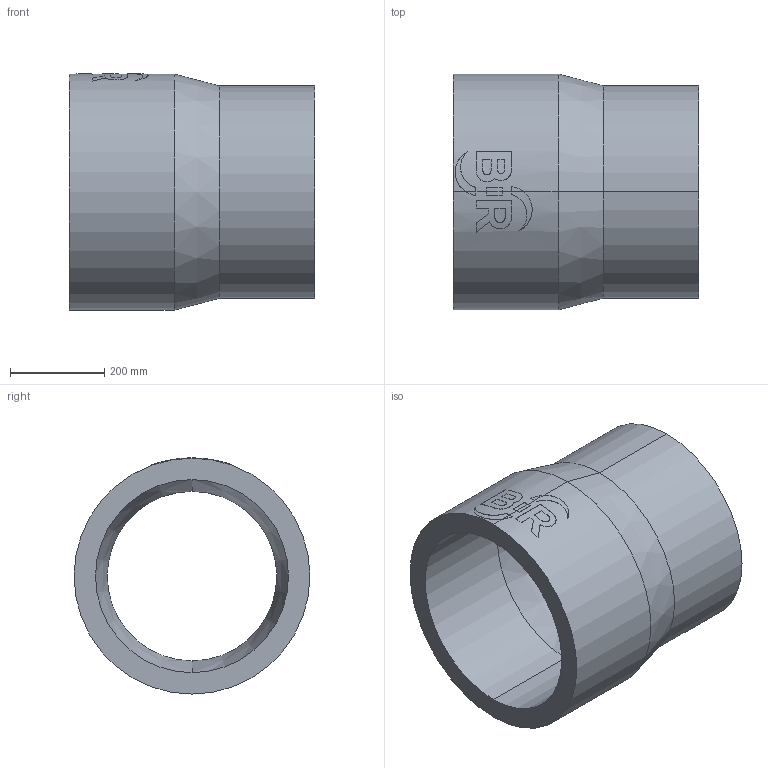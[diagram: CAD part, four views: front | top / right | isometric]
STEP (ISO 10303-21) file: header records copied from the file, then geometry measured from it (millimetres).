
FILE_DESCRIPTION (( 'STEP AP214' ), '1' );
FILE_NAME ('2323272615.STEP', '2018-07-20T10:28:49', ( '' ), ( '' ), 'SwSTEP 2.0', 'SolidWorks 2017', '' );
FILE_SCHEMA (( 'AUTOMOTIVE_DESIGN' ));
Length unit declared in the file: millimetre
Products named in the file (1): 2323272615
Bounding box: 520 x 500 x 500.46 mm (x, y, z)
Volume: 32113432.8 mm3; surface area: 1537710.8 mm2
Topology: 1 solids, 1 shells, 63 faces, 160 edges, 104 vertices
Faces by surface type: cylinder 31, plane 28, cone 4
Entity records: 3508 total; most frequent: CARTESIAN_POINT 1299, ORIENTED_EDGE 320, DIRECTION 296, EDGE_CURVE 160, AXIS2_PLACEMENT_3D 112, VERTEX_POINT 104, LINE 72, VECTOR 72
